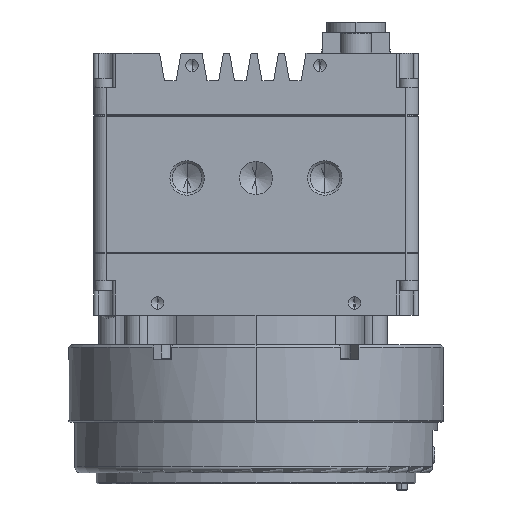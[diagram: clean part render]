
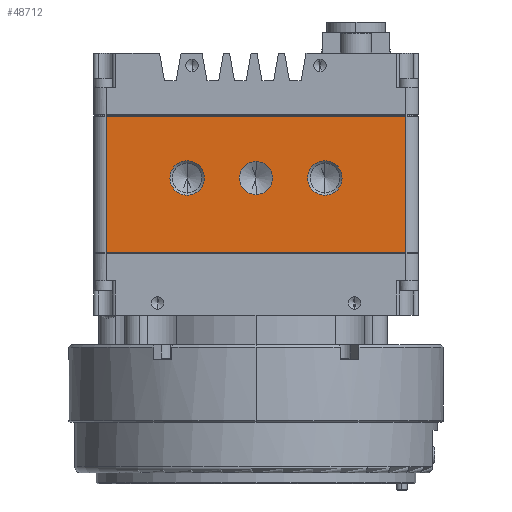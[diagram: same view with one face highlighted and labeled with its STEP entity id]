
A CAD part, front view. The second image highlights one B-rep face of the part: STEP entity #48712.
In plain terms, the highlighted planar face has unit normal (0, -1, 0).
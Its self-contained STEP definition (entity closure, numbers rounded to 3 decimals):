
#467 = DIRECTION ( 'NONE',  ( 0., 0., 1. ) ) ;
#1153 = LINE ( 'NONE', #31238, #29217 ) ;
#1393 = VERTEX_POINT ( 'NONE', #21459 ) ;
#1619 = VERTEX_POINT ( 'NONE', #33523 ) ;
#3197 = AXIS2_PLACEMENT_3D ( 'NONE', #33620, #63350, #58655 ) ;
#3786 = CARTESIAN_POINT ( 'NONE',  ( 14., -26.67, -12.7 ) ) ;
#5143 = DIRECTION ( 'NONE',  ( 0., -1., 0. ) ) ;
#5228 = ORIENTED_EDGE ( 'NONE', *, *, #33378, .F. ) ;
#5649 = FACE_BOUND ( 'NONE', #41788, .T. ) ;
#6584 = DIRECTION ( 'NONE',  ( 0., 0., -1. ) ) ;
#9628 = FACE_OUTER_BOUND ( 'NONE', #65924, .T. ) ;
#11503 = AXIS2_PLACEMENT_3D ( 'NONE', #3786, #23982, #59741 ) ;
#12370 = AXIS2_PLACEMENT_3D ( 'NONE', #13133, #13366, #33123 ) ;
#13133 = CARTESIAN_POINT ( 'NONE',  ( 14., -26.67, -12.7 ) ) ;
#13366 = DIRECTION ( 'NONE',  ( 0., -1., 0. ) ) ;
#13576 = VECTOR ( 'NONE', #52256, 1000. ) ;
#15210 = LINE ( 'NONE', #47777, #13576 ) ;
#16506 = DIRECTION ( 'NONE',  ( 0., 1., 0. ) ) ;
#17737 = CARTESIAN_POINT ( 'NONE',  ( -30.48, -26.67, -0.127 ) ) ;
#20416 = VERTEX_POINT ( 'NONE', #49228 ) ;
#20850 = VERTEX_POINT ( 'NONE', #32935 ) ;
#20985 = CARTESIAN_POINT ( 'NONE',  ( -14., -26.67, -9.2 ) ) ;
#21459 = CARTESIAN_POINT ( 'NONE',  ( 14., -26.67, -9.2 ) ) ;
#21898 = DIRECTION ( 'NONE',  ( 0., 0., -1. ) ) ;
#23725 = VERTEX_POINT ( 'NONE', #31109 ) ;
#23982 = DIRECTION ( 'NONE',  ( 0., -1., 0. ) ) ;
#24342 = ORIENTED_EDGE ( 'NONE', *, *, #53655, .T. ) ;
#24452 = AXIS2_PLACEMENT_3D ( 'NONE', #47123, #16506, #46665 ) ;
#24898 = DIRECTION ( 'NONE',  ( 0., 0., -1. ) ) ;
#25179 = LINE ( 'NONE', #17737, #29173 ) ;
#26333 = DIRECTION ( 'NONE',  ( 0., -1., 0. ) ) ;
#26434 = VERTEX_POINT ( 'NONE', #48451 ) ;
#28838 = EDGE_CURVE ( 'NONE', #62050, #59344, #39191, .T. ) ;
#29173 = VECTOR ( 'NONE', #53272, 1000. ) ;
#29217 = VECTOR ( 'NONE', #467, 1000. ) ;
#29350 = CIRCLE ( 'NONE', #44340, 3.378 ) ;
#30869 = ORIENTED_EDGE ( 'NONE', *, *, #36951, .F. ) ;
#31109 = CARTESIAN_POINT ( 'NONE',  ( 0., -26.67, -9.322 ) ) ;
#31238 = CARTESIAN_POINT ( 'NONE',  ( 30.48, -26.67, 0. ) ) ;
#31516 = PLANE ( 'NONE',  #24452 ) ;
#32935 = CARTESIAN_POINT ( 'NONE',  ( 0., -26.67, -16.078 ) ) ;
#32978 = VERTEX_POINT ( 'NONE', #37453 ) ;
#33123 = DIRECTION ( 'NONE',  ( 0., 0., -1. ) ) ;
#33252 = CIRCLE ( 'NONE', #12370, 3.5 ) ;
#33378 = EDGE_CURVE ( 'NONE', #23725, #20850, #29350, .T. ) ;
#33405 = ORIENTED_EDGE ( 'NONE', *, *, #37588, .F. ) ;
#33523 = CARTESIAN_POINT ( 'NONE',  ( 30.48, -26.67, -27.813 ) ) ;
#33620 = CARTESIAN_POINT ( 'NONE',  ( -14., -26.67, -12.7 ) ) ;
#33686 = FACE_BOUND ( 'NONE', #60988, .T. ) ;
#35624 = CARTESIAN_POINT ( 'NONE',  ( 0., -26.67, -12.7 ) ) ;
#36951 = EDGE_CURVE ( 'NONE', #32978, #1393, #50899, .T. ) ;
#37122 = EDGE_CURVE ( 'NONE', #1393, #32978, #33252, .T. ) ;
#37185 = CIRCLE ( 'NONE', #44130, 3.378 ) ;
#37453 = CARTESIAN_POINT ( 'NONE',  ( 14., -26.67, -16.2 ) ) ;
#37588 = EDGE_CURVE ( 'NONE', #20850, #23725, #37185, .T. ) ;
#39191 = CIRCLE ( 'NONE', #62531, 3.5 ) ;
#41086 = DIRECTION ( 'NONE',  ( 0., 0., -1. ) ) ;
#41366 = ORIENTED_EDGE ( 'NONE', *, *, #37122, .F. ) ;
#41524 = CARTESIAN_POINT ( 'NONE',  ( -30.48, -26.67, 0. ) ) ;
#41788 = EDGE_LOOP ( 'NONE', ( #30869, #41366 ) ) ;
#44130 = AXIS2_PLACEMENT_3D ( 'NONE', #52065, #26333, #6584 ) ;
#44246 = EDGE_CURVE ( 'NONE', #1619, #60258, #15210, .T. ) ;
#44340 = AXIS2_PLACEMENT_3D ( 'NONE', #35624, #5143, #24898 ) ;
#45878 = EDGE_LOOP ( 'NONE', ( #33405, #5228 ) ) ;
#46665 = DIRECTION ( 'NONE',  ( 0., 0., 1. ) ) ;
#46717 = CARTESIAN_POINT ( 'NONE',  ( -14., -26.67, -16.2 ) ) ;
#47123 = CARTESIAN_POINT ( 'NONE',  ( -33.02, -26.67, 0. ) ) ;
#47207 = EDGE_CURVE ( 'NONE', #1619, #26434, #1153, .T. ) ;
#47777 = CARTESIAN_POINT ( 'NONE',  ( -30.48, -26.67, -27.813 ) ) ;
#48451 = CARTESIAN_POINT ( 'NONE',  ( 30.48, -26.67, -0.127 ) ) ;
#48650 = CARTESIAN_POINT ( 'NONE',  ( -30.48, -26.67, -27.813 ) ) ;
#48685 = EDGE_CURVE ( 'NONE', #20416, #60258, #60129, .T. ) ;
#48712 = ADVANCED_FACE ( 'NONE', ( #33686, #5649, #52105, #9628 ), #31516, .F. ) ;
#49228 = CARTESIAN_POINT ( 'NONE',  ( -30.48, -26.67, -0.127 ) ) ;
#49646 = ORIENTED_EDGE ( 'NONE', *, *, #48685, .T. ) ;
#49725 = VECTOR ( 'NONE', #41086, 1000. ) ;
#50899 = CIRCLE ( 'NONE', #11503, 3.5 ) ;
#52065 = CARTESIAN_POINT ( 'NONE',  ( 0., -26.67, -12.7 ) ) ;
#52105 = FACE_BOUND ( 'NONE', #45878, .T. ) ;
#52256 = DIRECTION ( 'NONE',  ( -1., 0., 0. ) ) ;
#53272 = DIRECTION ( 'NONE',  ( -1., 0., 0. ) ) ;
#53655 = EDGE_CURVE ( 'NONE', #26434, #20416, #25179, .T. ) ;
#54820 = CIRCLE ( 'NONE', #3197, 3.5 ) ;
#55324 = EDGE_CURVE ( 'NONE', #59344, #62050, #54820, .T. ) ;
#57965 = ORIENTED_EDGE ( 'NONE', *, *, #44246, .F. ) ;
#58142 = DIRECTION ( 'NONE',  ( 0., -1., 0. ) ) ;
#58334 = ORIENTED_EDGE ( 'NONE', *, *, #28838, .F. ) ;
#58359 = ORIENTED_EDGE ( 'NONE', *, *, #47207, .T. ) ;
#58581 = CARTESIAN_POINT ( 'NONE',  ( -14., -26.67, -12.7 ) ) ;
#58655 = DIRECTION ( 'NONE',  ( 0., 0., -1. ) ) ;
#59344 = VERTEX_POINT ( 'NONE', #46717 ) ;
#59741 = DIRECTION ( 'NONE',  ( 0., 0., -1. ) ) ;
#60129 = LINE ( 'NONE', #41524, #49725 ) ;
#60258 = VERTEX_POINT ( 'NONE', #48650 ) ;
#60988 = EDGE_LOOP ( 'NONE', ( #65037, #58334 ) ) ;
#62050 = VERTEX_POINT ( 'NONE', #20985 ) ;
#62531 = AXIS2_PLACEMENT_3D ( 'NONE', #58581, #58142, #21898 ) ;
#63350 = DIRECTION ( 'NONE',  ( 0., -1., 0. ) ) ;
#65037 = ORIENTED_EDGE ( 'NONE', *, *, #55324, .F. ) ;
#65924 = EDGE_LOOP ( 'NONE', ( #24342, #49646, #57965, #58359 ) ) ;
